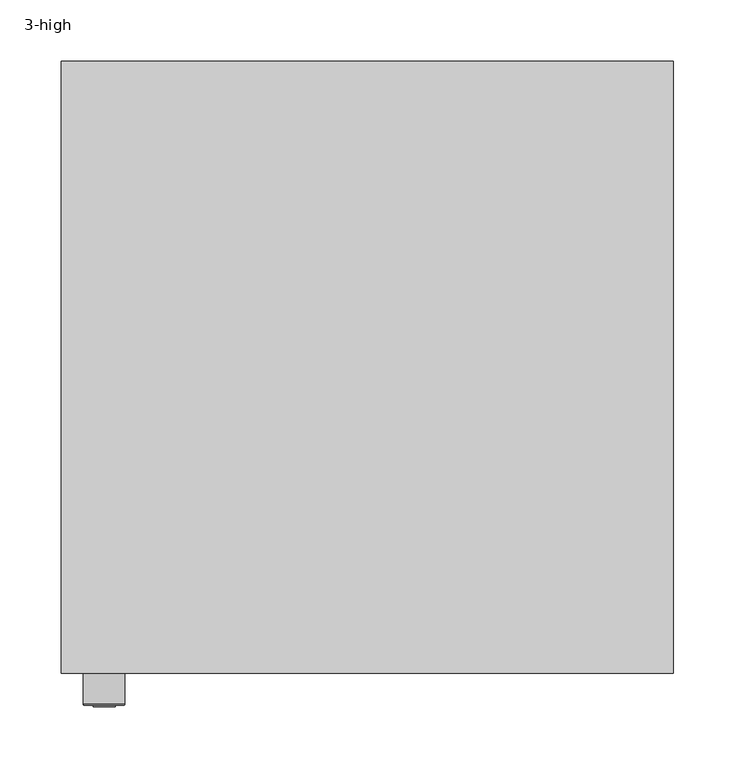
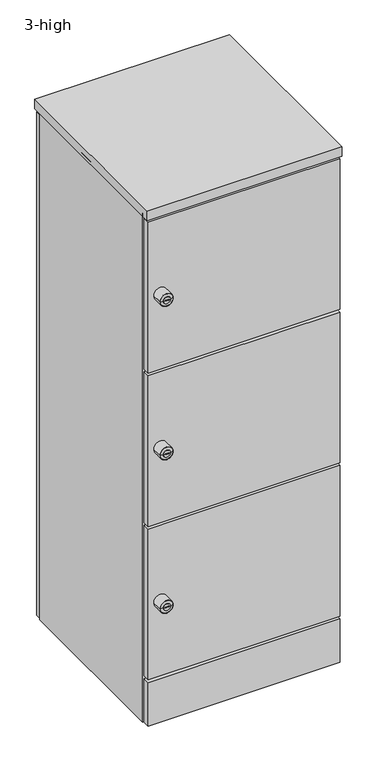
"""IFC4 building model written with IfcOpenShell, lengths in millimetres: furniture geometry, Furniture_Storage_Spacestor_SignatureHotLocker : 3-high."""

from ifc_helpers import new_model, si_unit, point, frame, origin, origin_with_axes, place, context, project, spatial, polyline, circle_curve, ellipse_curve, trimmed, outline, extrude, source, transform, mapped, element, save
from ifc_brep_helpers import plane_surface, cylinder_surface, revolved_surface, advanced_brep


def furniture_3_high_bf73a739(model_context):
    return source(origin(), model_context, "Body", "SolidModel", [
        extrude(outline(polyline([(489.0, 0.0), (11.0, 0.0), (11.0, 459.0), (489.0, 459.0), (489.0, 0.0)])), frame((0.0, 0.0, 1358.5), z_axis=(0.0, 0.0, 1.0), x_axis=(1.0, 0.0, 0.0)), (0.0, 0.0, 1.0), 22.0),
        extrude(outline(polyline([(489.0, 0.0), (11.0, 0.0), (11.0, 459.0), (489.0, 459.0), (489.0, 0.0)])), frame((0.0, 0.0, 942.5), z_axis=(0.0, 0.0, 1.0), x_axis=(1.0, 0.0, 0.0)), (0.0, 0.0, 1.0), 22.0),
        extrude(outline(polyline([(489.0, 0.0), (11.0, 0.0), (11.0, 459.0), (489.0, 459.0), (489.0, 0.0)])), frame((0.0, 0.0, 526.5), z_axis=(0.0, 0.0, 1.0), x_axis=(1.0, 0.0, 0.0)), (0.0, 0.0, 1.0), 22.0),
        advanced_brep(
        [(18.0, -45.3116344, 1161.5), (52.0, -45.3116344, 1161.5), (52.0, -18.0, 1161.5), (18.0, -18.0, 1161.5), (35.0, -18.0, 1161.5), (26.0252681, -46.3150077, 1161.5), (43.9747319, -46.3150077, 1161.5), (50.9966266, -46.3150077, 1161.5), (19.0033734, -46.3150077, 1161.5), (26.0252681, -47.4703043, 1161.5), (43.9747319, -47.4703043, 1161.5), (30.1754848, -47.4703043, 1161.5), (30.1754848, -47.4703043, 1162.8633438), (39.8245152, -47.4703043, 1162.8633438), (39.8245152, -47.4703043, 1161.5), (39.8245152, -47.4703043, 1160.1366562), (30.1754848, -47.4703043, 1160.1366562), (39.8245152, -27.8604291, 1162.8633438), (30.1754848, -27.8604291, 1162.8633438), (30.1754848, -27.8604291, 1160.1366562), (39.8245152, -27.8604291, 1160.1366562)],
        [
            (0, 1, circle_curve(frame((35.0, -45.3116344, 1161.5), z_axis=(0.0, 1.0, 0.0), x_axis=(1.0, 0.0, 0.0)), 17.0)),
            (1, 2),
            (2, 3, circle_curve(frame((35.0, -18.0, 1161.5), z_axis=(0.0, -1.0, 0.0), x_axis=(1.0, 0.0, 0.0)), 17.0)),
            (3, 0),
            (1, 0, circle_curve(frame((35.0, -45.3116344, 1161.5), z_axis=(0.0, 1.0, 0.0), x_axis=(1.0, 0.0, 0.0)), 17.0)),
            (3, 2, circle_curve(frame((35.0, -18.0, 1161.5), z_axis=(0.0, -1.0, 0.0), x_axis=(1.0, 0.0, 0.0)), 17.0)),
            (2, 4),
            (4, 3),
            (5, 6, circle_curve(frame((35.0, -46.3150077, 1161.5), z_axis=(0.0, 1.0, 0.0), x_axis=(1.0, 0.0, 0.0)), 8.9747319)),
            (6, 7),
            (7, 8, circle_curve(frame((35.0, -46.3150077, 1161.5), z_axis=(0.0, -1.0, 0.0), x_axis=(1.0, 0.0, 0.0)), 15.9966266)),
            (8, 5),
            (6, 5, circle_curve(frame((35.0, -46.3150077, 1161.5), z_axis=(0.0, 1.0, 0.0), x_axis=(1.0, 0.0, 0.0)), 8.9747319)),
            (8, 7, circle_curve(frame((35.0, -46.3150077, 1161.5), z_axis=(0.0, -1.0, 0.0), x_axis=(1.0, 0.0, 0.0)), 15.9966266)),
            (0, 8, circle_curve(frame((19.0033734, -45.3116344, 1161.5), z_axis=(0.0, 0.0, 1.0), x_axis=(-1.0, 0.0, 0.0)), 1.0033734)),
            (7, 1, circle_curve(frame((50.9966266, -45.3116344, 1161.5), z_axis=(0.0, 0.0, 1.0), x_axis=(1.0, 0.0, 0.0)), 1.0033734)),
            (5, 9),
            (9, 10, circle_curve(frame((35.0, -47.4703043, 1161.5), z_axis=(0.0, 1.0, 0.0), x_axis=(1.0, 0.0, 0.0)), 8.9747319)),
            (10, 6),
            (10, 9, circle_curve(frame((35.0, -47.4703043, 1161.5), z_axis=(0.0, 1.0, 0.0), x_axis=(1.0, 0.0, 0.0)), 8.9747319)),
            (9, 11),
            (11, 12),
            (12, 13),
            (13, 14),
            (14, 10),
            (14, 15),
            (15, 16),
            (16, 11),
            (17, 18),
            (18, 19),
            (19, 20),
            (20, 17),
            (17, 13),
            (12, 18),
            (16, 19),
            (15, 20),
        ],
        [
            cylinder_surface(frame((35.0, -2627.0581012, 1161.5), z_axis=(0.0, -1.0, 0.0), x_axis=(1.0, 0.0, 0.0)), 17.0),
            plane_surface(frame((35.0, -18.0, 1161.5), z_axis=(0.0, 1.0, 0.0), x_axis=(1.0, 0.0, 0.0))),
            plane_surface(frame((35.0, -46.3150077, 1161.5), z_axis=(0.0, -1.0, 0.0), x_axis=(1.0, 0.0, 0.0))),
            revolved_surface(trimmed(ellipse_curve(frame((50.9966266, -45.3116344, 1161.5), z_axis=(0.0, 0.0, -1.0), x_axis=(1.0, 0.0, 0.0)), 1.0033734, 1.0033734), [point((52.0, -45.3116344, 1161.5))], [point((50.9966266, -46.3150077, 1161.5))], True, "CARTESIAN"), (35.0, -2627.0581012, 1161.5), (0.0, -1.0, 0.0)),
            cylinder_surface(frame((35.0, -2627.0581012, 1161.5), z_axis=(0.0, -1.0, 0.0), x_axis=(1.0, 0.0, 0.0)), 8.9747319),
            plane_surface(frame((35.0, -47.4703043, 1161.5), z_axis=(0.0, -1.0, 0.0), x_axis=(1.0, 0.0, 0.0))),
            plane_surface(frame((30.5434751, -27.8604291, 1162.8633438), z_axis=(0.0, -1.0, 0.0), x_axis=(1.0, 0.0, 0.0))),
            plane_surface(frame((39.8245152, -49.2046383, 1162.8633438), z_axis=(0.0, 0.0, -1.0), x_axis=(0.0, 1.0, 0.0))),
            plane_surface(frame((30.1754848, -49.2046383, 1162.8633438), z_axis=(1.0, 0.0, 0.0), x_axis=(0.0, 1.0, 0.0))),
            plane_surface(frame((30.1754848, -49.2046383, 1160.1366562), z_axis=(0.0, 0.0, 1.0), x_axis=(0.0, 1.0, 0.0))),
            plane_surface(frame((39.8245152, -49.2046383, 1160.1366562), z_axis=(-1.0, 0.0, 0.0), x_axis=(0.0, 1.0, 0.0))),
        ],
        [
            (0, [[1, 2, 3, 4]]),
            (0, [[-2, 5, -4, 6]]),
            (1, [[-3, 7, 8]]),
            (1, [[-6, -8, -7]]),
            (2, [[9, 10, 11, 12]]),
            (2, [[-10, 13, -12, 14]]),
            (3, [[-1, 15, -11, 16]]),
            (3, [[-5, -16, -14, -15]]),
            (4, [[-9, 17, 18, 19]]),
            (4, [[-13, -19, 20, -17]]),
            (5, [[-18, 21, 22, 23, 24, 25]]),
            (5, [[-20, -25, 26, 27, 28, -21]]),
            (6, [[29, 30, 31, 32]]),
            (7, [[-29, 33, -23, 34]]),
            (8, [[-30, -34, -22, -28, 35]]),
            (9, [[-31, -35, -27, 36]]),
            (10, [[-32, -36, -26, -24, -33]]),
        ],
    ),
        advanced_brep(
        [(18.0, -45.3116344, 745.5), (52.0, -45.3116344, 745.5), (52.0, -18.0, 745.5), (18.0, -18.0, 745.5), (35.0, -18.0, 745.5), (26.0252681, -46.3150077, 745.5), (43.9747319, -46.3150077, 745.5), (50.9966266, -46.3150077, 745.5), (19.0033734, -46.3150077, 745.5), (26.0252681, -47.4703043, 745.5), (43.9747319, -47.4703043, 745.5), (30.1754848, -47.4703043, 745.5), (30.1754848, -47.4703043, 746.8633438), (39.8245152, -47.4703043, 746.8633438), (39.8245152, -47.4703043, 745.5), (39.8245152, -47.4703043, 744.1366562), (30.1754848, -47.4703043, 744.1366562), (39.8245152, -27.8604291, 746.8633438), (30.1754848, -27.8604291, 746.8633438), (30.1754848, -27.8604291, 744.1366562), (39.8245152, -27.8604291, 744.1366562)],
        [
            (0, 1, circle_curve(frame((35.0, -45.3116344, 745.5), z_axis=(0.0, 1.0, 0.0), x_axis=(1.0, 0.0, 0.0)), 17.0)),
            (1, 2),
            (2, 3, circle_curve(frame((35.0, -18.0, 745.5), z_axis=(0.0, -1.0, 0.0), x_axis=(1.0, 0.0, 0.0)), 17.0)),
            (3, 0),
            (1, 0, circle_curve(frame((35.0, -45.3116344, 745.5), z_axis=(0.0, 1.0, 0.0), x_axis=(1.0, 0.0, 0.0)), 17.0)),
            (3, 2, circle_curve(frame((35.0, -18.0, 745.5), z_axis=(0.0, -1.0, 0.0), x_axis=(1.0, 0.0, 0.0)), 17.0)),
            (2, 4),
            (4, 3),
            (5, 6, circle_curve(frame((35.0, -46.3150077, 745.5), z_axis=(0.0, 1.0, 0.0), x_axis=(1.0, 0.0, 0.0)), 8.9747319)),
            (6, 7),
            (7, 8, circle_curve(frame((35.0, -46.3150077, 745.5), z_axis=(0.0, -1.0, 0.0), x_axis=(1.0, 0.0, 0.0)), 15.9966266)),
            (8, 5),
            (6, 5, circle_curve(frame((35.0, -46.3150077, 745.5), z_axis=(0.0, 1.0, 0.0), x_axis=(1.0, 0.0, 0.0)), 8.9747319)),
            (8, 7, circle_curve(frame((35.0, -46.3150077, 745.5), z_axis=(0.0, -1.0, 0.0), x_axis=(1.0, 0.0, 0.0)), 15.9966266)),
            (0, 8, circle_curve(frame((19.0033734, -45.3116344, 745.5), z_axis=(0.0, 0.0, 1.0), x_axis=(-1.0, 0.0, 0.0)), 1.0033734)),
            (7, 1, circle_curve(frame((50.9966266, -45.3116344, 745.5), z_axis=(0.0, 0.0, 1.0), x_axis=(1.0, 0.0, 0.0)), 1.0033734)),
            (5, 9),
            (9, 10, circle_curve(frame((35.0, -47.4703043, 745.5), z_axis=(0.0, 1.0, 0.0), x_axis=(1.0, 0.0, 0.0)), 8.9747319)),
            (10, 6),
            (10, 9, circle_curve(frame((35.0, -47.4703043, 745.5), z_axis=(0.0, 1.0, 0.0), x_axis=(1.0, 0.0, 0.0)), 8.9747319)),
            (9, 11),
            (11, 12),
            (12, 13),
            (13, 14),
            (14, 10),
            (14, 15),
            (15, 16),
            (16, 11),
            (17, 18),
            (18, 19),
            (19, 20),
            (20, 17),
            (17, 13),
            (12, 18),
            (16, 19),
            (15, 20),
        ],
        [
            cylinder_surface(frame((35.0, -2627.0581012, 745.5), z_axis=(0.0, -1.0, 0.0), x_axis=(1.0, 0.0, 0.0)), 17.0),
            plane_surface(frame((35.0, -18.0, 745.5), z_axis=(0.0, 1.0, 0.0), x_axis=(1.0, 0.0, 0.0))),
            plane_surface(frame((35.0, -46.3150077, 745.5), z_axis=(0.0, -1.0, 0.0), x_axis=(1.0, 0.0, 0.0))),
            revolved_surface(trimmed(ellipse_curve(frame((50.9966266, -45.3116344, 745.5), z_axis=(0.0, 0.0, -1.0), x_axis=(1.0, 0.0, 0.0)), 1.0033734, 1.0033734), [point((52.0, -45.3116344, 745.5))], [point((50.9966266, -46.3150077, 745.5))], True, "CARTESIAN"), (35.0, -2627.0581012, 745.5), (0.0, -1.0, 0.0)),
            cylinder_surface(frame((35.0, -2627.0581012, 745.5), z_axis=(0.0, -1.0, 0.0), x_axis=(1.0, 0.0, 0.0)), 8.9747319),
            plane_surface(frame((35.0, -47.4703043, 745.5), z_axis=(0.0, -1.0, 0.0), x_axis=(1.0, 0.0, 0.0))),
            plane_surface(frame((30.5434751, -27.8604291, 746.8633438), z_axis=(0.0, -1.0, 0.0), x_axis=(1.0, 0.0, 0.0))),
            plane_surface(frame((39.8245152, -49.2046383, 746.8633438), z_axis=(0.0, 0.0, -1.0), x_axis=(0.0, 1.0, 0.0))),
            plane_surface(frame((30.1754848, -49.2046383, 746.8633438), z_axis=(1.0, 0.0, 0.0), x_axis=(0.0, 1.0, 0.0))),
            plane_surface(frame((30.1754848, -49.2046383, 744.1366562), z_axis=(0.0, 0.0, 1.0), x_axis=(0.0, 1.0, 0.0))),
            plane_surface(frame((39.8245152, -49.2046383, 744.1366562), z_axis=(-1.0, 0.0, 0.0), x_axis=(0.0, 1.0, 0.0))),
        ],
        [
            (0, [[1, 2, 3, 4]]),
            (0, [[-2, 5, -4, 6]]),
            (1, [[-3, 7, 8]]),
            (1, [[-6, -8, -7]]),
            (2, [[9, 10, 11, 12]]),
            (2, [[-10, 13, -12, 14]]),
            (3, [[-1, 15, -11, 16]]),
            (3, [[-5, -16, -14, -15]]),
            (4, [[-9, 17, 18, 19]]),
            (4, [[-13, -19, 20, -17]]),
            (5, [[-18, 21, 22, 23, 24, 25]]),
            (5, [[-20, -25, 26, 27, 28, -21]]),
            (6, [[29, 30, 31, 32]]),
            (7, [[-29, 33, -23, 34]]),
            (8, [[-30, -34, -22, -28, 35]]),
            (9, [[-31, -35, -27, 36]]),
            (10, [[-32, -36, -26, -24, -33]]),
        ],
    ),
        advanced_brep(
        [(18.0, -45.3116344, 329.5), (52.0, -45.3116344, 329.5), (52.0, -18.0, 329.5), (18.0, -18.0, 329.5), (35.0, -18.0, 329.5), (26.0252681, -46.3150077, 329.5), (43.9747319, -46.3150077, 329.5), (50.9966266, -46.3150077, 329.5), (19.0033734, -46.3150077, 329.5), (26.0252681, -47.4703043, 329.5), (43.9747319, -47.4703043, 329.5), (30.1754848, -47.4703043, 329.5), (30.1754848, -47.4703043, 330.8633438), (39.8245152, -47.4703043, 330.8633438), (39.8245152, -47.4703043, 329.5), (39.8245152, -47.4703043, 328.1366562), (30.1754848, -47.4703043, 328.1366562), (39.8245152, -27.8604291, 330.8633438), (30.1754848, -27.8604291, 330.8633438), (30.1754848, -27.8604291, 328.1366562), (39.8245152, -27.8604291, 328.1366562)],
        [
            (0, 1, circle_curve(frame((35.0, -45.3116344, 329.5), z_axis=(0.0, 1.0, 0.0), x_axis=(1.0, 0.0, 0.0)), 17.0)),
            (1, 2),
            (2, 3, circle_curve(frame((35.0, -18.0, 329.5), z_axis=(0.0, -1.0, 0.0), x_axis=(1.0, 0.0, 0.0)), 17.0)),
            (3, 0),
            (1, 0, circle_curve(frame((35.0, -45.3116344, 329.5), z_axis=(0.0, 1.0, 0.0), x_axis=(1.0, 0.0, 0.0)), 17.0)),
            (3, 2, circle_curve(frame((35.0, -18.0, 329.5), z_axis=(0.0, -1.0, 0.0), x_axis=(1.0, 0.0, 0.0)), 17.0)),
            (2, 4),
            (4, 3),
            (5, 6, circle_curve(frame((35.0, -46.3150077, 329.5), z_axis=(0.0, 1.0, 0.0), x_axis=(1.0, 0.0, 0.0)), 8.9747319)),
            (6, 7),
            (7, 8, circle_curve(frame((35.0, -46.3150077, 329.5), z_axis=(0.0, -1.0, 0.0), x_axis=(1.0, 0.0, 0.0)), 15.9966266)),
            (8, 5),
            (6, 5, circle_curve(frame((35.0, -46.3150077, 329.5), z_axis=(0.0, 1.0, 0.0), x_axis=(1.0, 0.0, 0.0)), 8.9747319)),
            (8, 7, circle_curve(frame((35.0, -46.3150077, 329.5), z_axis=(0.0, -1.0, 0.0), x_axis=(1.0, 0.0, 0.0)), 15.9966266)),
            (0, 8, circle_curve(frame((19.0033734, -45.3116344, 329.5), z_axis=(0.0, 0.0, 1.0), x_axis=(-1.0, 0.0, 0.0)), 1.0033734)),
            (7, 1, circle_curve(frame((50.9966266, -45.3116344, 329.5), z_axis=(0.0, 0.0, 1.0), x_axis=(1.0, 0.0, 0.0)), 1.0033734)),
            (5, 9),
            (9, 10, circle_curve(frame((35.0, -47.4703043, 329.5), z_axis=(0.0, 1.0, 0.0), x_axis=(1.0, 0.0, 0.0)), 8.9747319)),
            (10, 6),
            (10, 9, circle_curve(frame((35.0, -47.4703043, 329.5), z_axis=(0.0, 1.0, 0.0), x_axis=(1.0, 0.0, 0.0)), 8.9747319)),
            (9, 11),
            (11, 12),
            (12, 13),
            (13, 14),
            (14, 10),
            (14, 15),
            (15, 16),
            (16, 11),
            (17, 18),
            (18, 19),
            (19, 20),
            (20, 17),
            (17, 13),
            (12, 18),
            (16, 19),
            (15, 20),
        ],
        [
            cylinder_surface(frame((35.0, -2627.0581012, 329.5), z_axis=(0.0, -1.0, 0.0), x_axis=(1.0, 0.0, 0.0)), 17.0),
            plane_surface(frame((35.0, -18.0, 329.5), z_axis=(0.0, 1.0, 0.0), x_axis=(1.0, 0.0, 0.0))),
            plane_surface(frame((35.0, -46.3150077, 329.5), z_axis=(0.0, -1.0, 0.0), x_axis=(1.0, 0.0, 0.0))),
            revolved_surface(trimmed(ellipse_curve(frame((50.9966266, -45.3116344, 329.5), z_axis=(0.0, 0.0, -1.0), x_axis=(1.0, 0.0, 0.0)), 1.0033734, 1.0033734), [point((52.0, -45.3116344, 329.5))], [point((50.9966266, -46.3150077, 329.5))], True, "CARTESIAN"), (35.0, -2627.0581012, 329.5), (0.0, -1.0, 0.0)),
            cylinder_surface(frame((35.0, -2627.0581012, 329.5), z_axis=(0.0, -1.0, 0.0), x_axis=(1.0, 0.0, 0.0)), 8.9747319),
            plane_surface(frame((35.0, -47.4703043, 329.5), z_axis=(0.0, -1.0, 0.0), x_axis=(1.0, 0.0, 0.0))),
            plane_surface(frame((30.5434751, -27.8604291, 330.8633438), z_axis=(0.0, -1.0, 0.0), x_axis=(1.0, 0.0, 0.0))),
            plane_surface(frame((39.8245152, -49.2046383, 330.8633438), z_axis=(0.0, 0.0, -1.0), x_axis=(0.0, 1.0, 0.0))),
            plane_surface(frame((30.1754848, -49.2046383, 330.8633438), z_axis=(1.0, 0.0, 0.0), x_axis=(0.0, 1.0, 0.0))),
            plane_surface(frame((30.1754848, -49.2046383, 328.1366562), z_axis=(0.0, 0.0, 1.0), x_axis=(0.0, 1.0, 0.0))),
            plane_surface(frame((39.8245152, -49.2046383, 328.1366562), z_axis=(-1.0, 0.0, 0.0), x_axis=(0.0, 1.0, 0.0))),
        ],
        [
            (0, [[1, 2, 3, 4]]),
            (0, [[-2, 5, -4, 6]]),
            (1, [[-3, 7, 8]]),
            (1, [[-6, -8, -7]]),
            (2, [[9, 10, 11, 12]]),
            (2, [[-10, 13, -12, 14]]),
            (3, [[-1, 15, -11, 16]]),
            (3, [[-5, -16, -14, -15]]),
            (4, [[-9, 17, 18, 19]]),
            (4, [[-13, -19, 20, -17]]),
            (5, [[-18, 21, 22, 23, 24, 25]]),
            (5, [[-20, -25, 26, 27, 28, -21]]),
            (6, [[29, 30, 31, 32]]),
            (7, [[-29, 33, -23, 34]]),
            (8, [[-30, -34, -22, -28, 35]]),
            (9, [[-31, -35, -27, 36]]),
            (10, [[-32, -36, -26, -24, -33]]),
        ],
    ),
        extrude(outline(polyline([(496.5, -18.0), (3.5, -18.0), (3.5, 0.0), (496.5, 0.0), (496.5, -18.0)])), frame((0.0, 0.0, 957.0), z_axis=(0.0, 0.0, 1.0), x_axis=(1.0, 0.0, 0.0)), (0.0, 0.0, 1.0), 409.0),
        extrude(outline(polyline([(496.5, -18.0), (3.5, -18.0), (3.5, 0.0), (496.5, 0.0), (496.5, -18.0)])), frame((0.0, 0.0, 541.0), z_axis=(0.0, 0.0, 1.0), x_axis=(1.0, 0.0, 0.0)), (0.0, 0.0, 1.0), 409.0),
        extrude(outline(polyline([(496.5, -18.0), (3.5, -18.0), (3.5, 0.0), (496.5, 0.0), (496.5, -18.0)])), frame((0.0, 0.0, 125.0), z_axis=(0.0, 0.0, 1.0), x_axis=(1.0, 0.0, 0.0)), (0.0, 0.0, 1.0), 409.0),
        extrude(outline(polyline([(489.0, 0.0), (11.0, 0.0), (11.0, 459.0), (489.0, 459.0), (489.0, 0.0)])), frame((0.0, 0.0, 110.5), z_axis=(0.0, 0.0, 1.0), x_axis=(1.0, 0.0, 0.0)), (0.0, 0.0, 1.0), 22.0),
        extrude(outline(polyline([(496.5, 459.0), (3.5, 459.0), (3.5, 477.0), (496.5, 477.0), (496.5, 459.0)])), origin_with_axes(), (0.0, 0.0, 1.0), 1366.0),
        extrude(outline(polyline([(496.5, -18.0), (3.5, -18.0), (3.5, 0.0), (496.5, 0.0), (496.5, -18.0)])), origin_with_axes(), (0.0, 0.0, 1.0), 118.0),
        extrude(outline(polyline([(500.0, -20.5), (0.0, -20.5), (0.0, 479.5), (500.0, 479.5), (500.0, -20.5)])), frame((0.0, 0.0, 1373.0), z_axis=(0.0, 0.0, 1.0), x_axis=(1.0, 0.0, 0.0)), (0.0, 0.0, 1.0), 25.5),
        extrude(outline(polyline([(500.0, 0.0), (489.0, 0.0), (489.0, 459.0), (500.0, 459.0), (500.0, 0.0)])), origin_with_axes(), (0.0, 0.0, 1.0), 1380.5),
        extrude(outline(polyline([(11.0, 0.0), (0.0, 0.0), (0.0, 459.0), (11.0, 459.0), (11.0, 0.0)])), origin_with_axes(), (0.0, 0.0, 1.0), 1380.5),
    ])


if __name__ == "__main__":
    model = new_model("IFC4")
    model_context = context("Model", 3, world=origin())
    ifc_project = project(units=[si_unit("LENGTHUNIT", "METRE", prefix="MILLI")], contexts=[model_context])
    site = spatial("IfcSite", under=ifc_project)
    building = spatial("IfcBuilding", under=site)
    placement = place(None, origin())
    furniture_3_high_shape = furniture_3_high_bf73a739(model_context)
    element("IfcFurniture", 1, ObjectType="Furniture_Storage_Spacestor_SignatureHotLocker : 3-high", at=placement, inside=building, context=model_context, shape_type="MappedRepresentation", body=[
        mapped(furniture_3_high_shape, transform((0.0, 0.0, 0.0), x_axis=(1.0, 0.0, 0.0), y_axis=(0.0, 1.0, 0.0), z_axis=(0.0, 0.0, 1.0))),
    ])
    save(model, "model.ifc")
